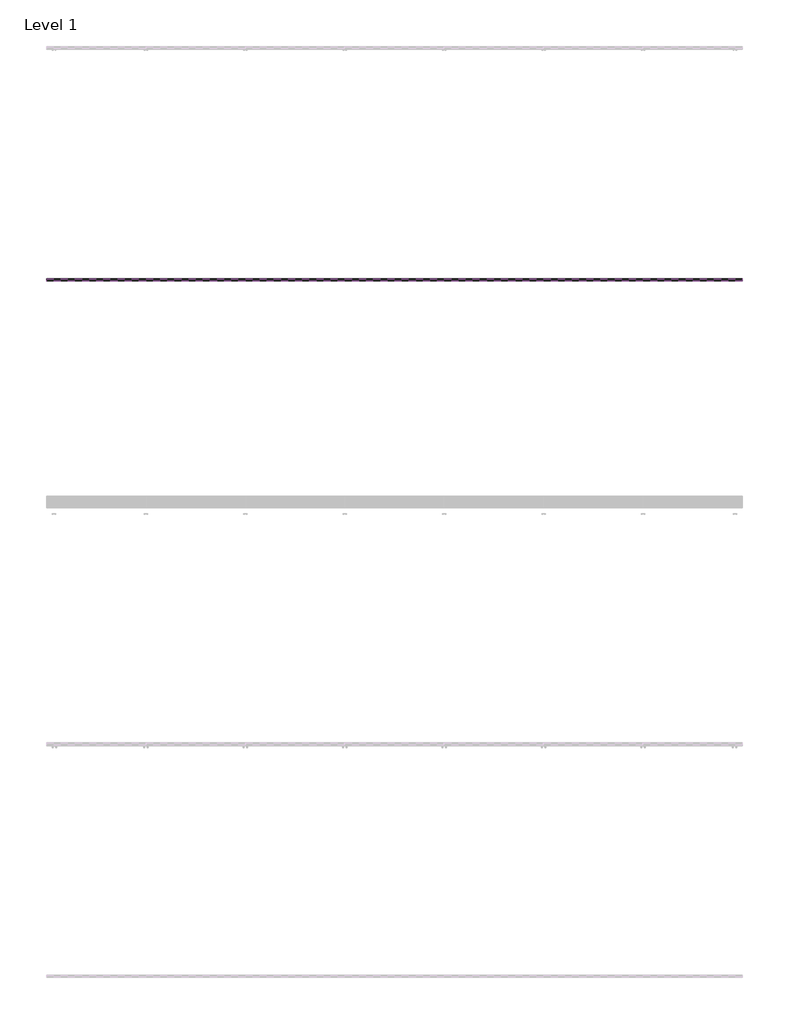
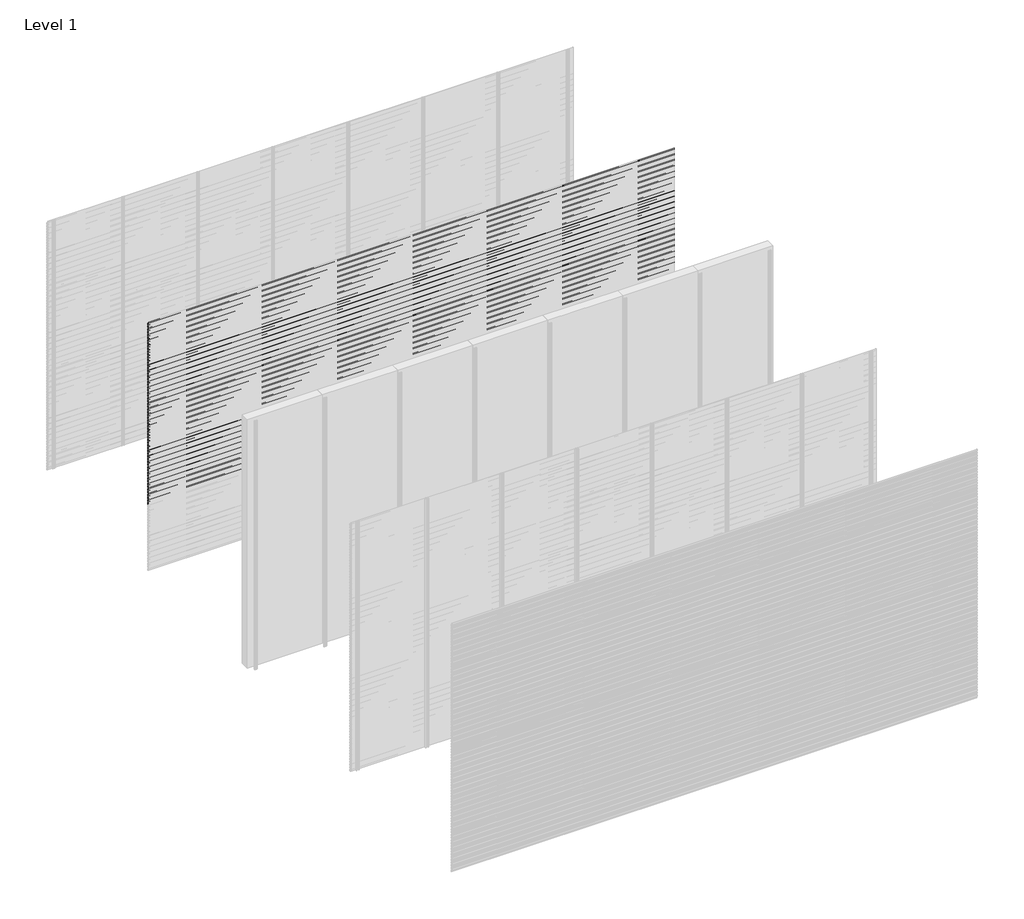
# One storey, part 88 of 96: 77 proxies.
"""IFC4 building model written with IfcOpenShell, lengths in millimetres."""

from ifc_helpers import new_model, si_unit, frame, origin, place, context, project, spatial, polyline, outline, extrude, element, save

model = new_model("IFC4")

# Units and contexts
model_context = context("Model", 3, world=origin())
ifc_project = project(units=[si_unit("LENGTHUNIT", "METRE", prefix="MILLI")], contexts=[model_context])

# Site, building, storey
site = spatial("IfcSite", under=ifc_project)
building = spatial("IfcBuilding", under=site)
storey = spatial("IfcBuildingStorey", under=building, Name="Level 1", Elevation=0.0)

# Proxies
placement = place(None, origin())
element("IfcBuildingElementProxy", 1, Name="Wall Sweeps", at=placement, inside=storey, context=model_context, shape_type="SweptSolid", body=[
    extrude(outline(polyline([(-1977.6, 2971.7655033), (-1977.6, 2957.4779188), (-1982.4114965, 2954.7), (-1982.4114965, 2955.9701706), (-1978.85, 2958.0264016), (-1978.85, 2971.0437382), (-1998.0, 2982.1000799), (-1998.0, 2997.0), (-1996.75, 2997.0), (-1996.75, 2982.8217609), (-1977.6, 2971.7655033)])), frame((0.0, 0.0, 0.0), z_axis=(1.0, 0.0, 0.0), x_axis=(0.0, 1.0, 0.0)), (0.0, 0.0, 1.0), 6000.0),
])
element("IfcBuildingElementProxy", 2, Name="Wall Sweeps", at=placement, inside=storey, context=model_context, shape_type="SweptSolid", body=[
    extrude(outline(polyline([(-1977.6, 2938.4655033), (-1977.6, 2924.1779188), (-1982.4114965, 2921.4), (-1982.4114965, 2922.6701706), (-1978.85, 2924.7264016), (-1978.85, 2937.7437382), (-1998.0, 2948.8000799), (-1998.0, 2963.7), (-1996.75, 2963.7), (-1996.75, 2949.5217609), (-1977.6, 2938.4655033)])), frame((0.0, 0.0, 0.0), z_axis=(1.0, 0.0, 0.0), x_axis=(0.0, 1.0, 0.0)), (0.0, 0.0, 1.0), 6000.0),
])
element("IfcBuildingElementProxy", 3, Name="Wall Sweeps", at=placement, inside=storey, context=model_context, shape_type="SweptSolid", body=[
    extrude(outline(polyline([(-1977.6, 2905.1655033), (-1977.6, 2890.8779188), (-1982.4114965, 2888.1), (-1982.4114965, 2889.3701706), (-1978.85, 2891.4264016), (-1978.85, 2904.4437382), (-1998.0, 2915.5000799), (-1998.0, 2930.4), (-1996.75, 2930.4), (-1996.75, 2916.2217609), (-1977.6, 2905.1655033)])), frame((0.0, 0.0, 0.0), z_axis=(1.0, 0.0, 0.0), x_axis=(0.0, 1.0, 0.0)), (0.0, 0.0, 1.0), 6000.0),
])
element("IfcBuildingElementProxy", 4, Name="Wall Sweeps", at=placement, inside=storey, context=model_context, shape_type="SweptSolid", body=[
    extrude(outline(polyline([(-1977.6, 2871.8655033), (-1977.6, 2857.5779188), (-1982.4114965, 2854.8), (-1982.4114965, 2856.0701706), (-1978.85, 2858.1264016), (-1978.85, 2871.1437382), (-1998.0, 2882.2000799), (-1998.0, 2897.1), (-1996.75, 2897.1), (-1996.75, 2882.9217609), (-1977.6, 2871.8655033)])), frame((0.0, 0.0, 0.0), z_axis=(1.0, 0.0, 0.0), x_axis=(0.0, 1.0, 0.0)), (0.0, 0.0, 1.0), 6000.0),
])
element("IfcBuildingElementProxy", 5, Name="Wall Sweeps", at=placement, inside=storey, context=model_context, shape_type="SweptSolid", body=[
    extrude(outline(polyline([(-1977.6, 2838.5655033), (-1977.6, 2824.2779188), (-1982.4114965, 2821.5), (-1982.4114965, 2822.7701706), (-1978.85, 2824.8264016), (-1978.85, 2837.8437382), (-1998.0, 2848.9000799), (-1998.0, 2863.8), (-1996.75, 2863.8), (-1996.75, 2849.6217609), (-1977.6, 2838.5655033)])), frame((0.0, 0.0, 0.0), z_axis=(1.0, 0.0, 0.0), x_axis=(0.0, 1.0, 0.0)), (0.0, 0.0, 1.0), 6000.0),
])
element("IfcBuildingElementProxy", 6, Name="Wall Sweeps", at=placement, inside=storey, context=model_context, shape_type="SweptSolid", body=[
    extrude(outline(polyline([(-1977.6, 2805.2655033), (-1977.6, 2790.9779188), (-1982.4114965, 2788.2), (-1982.4114965, 2789.4701706), (-1978.85, 2791.5264016), (-1978.85, 2804.5437382), (-1998.0, 2815.6000799), (-1998.0, 2830.5), (-1996.75, 2830.5), (-1996.75, 2816.3217609), (-1977.6, 2805.2655033)])), frame((0.0, 0.0, 0.0), z_axis=(1.0, 0.0, 0.0), x_axis=(0.0, 1.0, 0.0)), (0.0, 0.0, 1.0), 6000.0),
])
element("IfcBuildingElementProxy", 7, Name="Wall Sweeps", at=placement, inside=storey, context=model_context, shape_type="SweptSolid", body=[
    extrude(outline(polyline([(-1977.6, 2771.9655033), (-1977.6, 2757.6779188), (-1982.4114965, 2754.9), (-1982.4114965, 2756.1701706), (-1978.85, 2758.2264016), (-1978.85, 2771.2437382), (-1998.0, 2782.3000799), (-1998.0, 2797.2), (-1996.75, 2797.2), (-1996.75, 2783.0217609), (-1977.6, 2771.9655033)])), frame((0.0, 0.0, 0.0), z_axis=(1.0, 0.0, 0.0), x_axis=(0.0, 1.0, 0.0)), (0.0, 0.0, 1.0), 6000.0),
])
element("IfcBuildingElementProxy", 8, Name="Wall Sweeps", at=placement, inside=storey, context=model_context, shape_type="SweptSolid", body=[
    extrude(outline(polyline([(-1977.6, 2738.6655033), (-1977.6, 2724.3779188), (-1982.4114965, 2721.6), (-1982.4114965, 2722.8701706), (-1978.85, 2724.9264016), (-1978.85, 2737.9437382), (-1998.0, 2749.0000799), (-1998.0, 2763.9), (-1996.75, 2763.9), (-1996.75, 2749.7217609), (-1977.6, 2738.6655033)])), frame((0.0, 0.0, 0.0), z_axis=(1.0, 0.0, 0.0), x_axis=(0.0, 1.0, 0.0)), (0.0, 0.0, 1.0), 6000.0),
])
element("IfcBuildingElementProxy", 9, Name="Wall Sweeps", at=placement, inside=storey, context=model_context, shape_type="SweptSolid", body=[
    extrude(outline(polyline([(-1977.6, 2705.3655033), (-1977.6, 2691.0779188), (-1982.4114965, 2688.3), (-1982.4114965, 2689.5701706), (-1978.85, 2691.6264016), (-1978.85, 2704.6437382), (-1998.0, 2715.7000799), (-1998.0, 2730.6), (-1996.75, 2730.6), (-1996.75, 2716.4217609), (-1977.6, 2705.3655033)])), frame((0.0, 0.0, 0.0), z_axis=(1.0, 0.0, 0.0), x_axis=(0.0, 1.0, 0.0)), (0.0, 0.0, 1.0), 6000.0),
])
element("IfcBuildingElementProxy", 10, Name="Wall Sweeps", at=placement, inside=storey, context=model_context, shape_type="SweptSolid", body=[
    extrude(outline(polyline([(-1977.6, 2672.0655033), (-1977.6, 2657.7779188), (-1982.4114965, 2655.0), (-1982.4114965, 2656.2701706), (-1978.85, 2658.3264016), (-1978.85, 2671.3437382), (-1998.0, 2682.4000799), (-1998.0, 2697.3), (-1996.75, 2697.3), (-1996.75, 2683.1217609), (-1977.6, 2672.0655033)])), frame((0.0, 0.0, 0.0), z_axis=(1.0, 0.0, 0.0), x_axis=(0.0, 1.0, 0.0)), (0.0, 0.0, 1.0), 6000.0),
])
element("IfcBuildingElementProxy", 11, Name="Wall Sweeps", at=placement, inside=storey, context=model_context, shape_type="SweptSolid", body=[
    extrude(outline(polyline([(-1977.6, 2638.7655033), (-1977.6, 2624.4779188), (-1982.4114965, 2621.7), (-1982.4114965, 2622.9701706), (-1978.85, 2625.0264016), (-1978.85, 2638.0437382), (-1998.0, 2649.1000799), (-1998.0, 2664.0), (-1996.75, 2664.0), (-1996.75, 2649.8217609), (-1977.6, 2638.7655033)])), frame((0.0, 0.0, 0.0), z_axis=(1.0, 0.0, 0.0), x_axis=(0.0, 1.0, 0.0)), (0.0, 0.0, 1.0), 6000.0),
])
element("IfcBuildingElementProxy", 12, Name="Wall Sweeps", at=placement, inside=storey, context=model_context, shape_type="SweptSolid", body=[
    extrude(outline(polyline([(-1977.6, 2605.4655033), (-1977.6, 2591.1779188), (-1982.4114965, 2588.4), (-1982.4114965, 2589.6701706), (-1978.85, 2591.7264016), (-1978.85, 2604.7437382), (-1998.0, 2615.8000799), (-1998.0, 2630.7), (-1996.75, 2630.7), (-1996.75, 2616.5217609), (-1977.6, 2605.4655033)])), frame((0.0, 0.0, 0.0), z_axis=(1.0, 0.0, 0.0), x_axis=(0.0, 1.0, 0.0)), (0.0, 0.0, 1.0), 6000.0),
])
element("IfcBuildingElementProxy", 13, Name="Wall Sweeps", at=placement, inside=storey, context=model_context, shape_type="SweptSolid", body=[
    extrude(outline(polyline([(-1977.6, 2572.1655033), (-1977.6, 2557.8779188), (-1982.4114965, 2555.1), (-1982.4114965, 2556.3701706), (-1978.85, 2558.4264016), (-1978.85, 2571.4437382), (-1998.0, 2582.5000799), (-1998.0, 2597.4), (-1996.75, 2597.4), (-1996.75, 2583.2217609), (-1977.6, 2572.1655033)])), frame((0.0, 0.0, 0.0), z_axis=(1.0, 0.0, 0.0), x_axis=(0.0, 1.0, 0.0)), (0.0, 0.0, 1.0), 6000.0),
])
element("IfcBuildingElementProxy", 14, Name="Wall Sweeps", at=placement, inside=storey, context=model_context, shape_type="SweptSolid", body=[
    extrude(outline(polyline([(-1977.6, 2538.8655033), (-1977.6, 2524.5779188), (-1982.4114965, 2521.8), (-1982.4114965, 2523.0701706), (-1978.85, 2525.1264016), (-1978.85, 2538.1437382), (-1998.0, 2549.2000799), (-1998.0, 2564.1), (-1996.75, 2564.1), (-1996.75, 2549.9217609), (-1977.6, 2538.8655033)])), frame((0.0, 0.0, 0.0), z_axis=(1.0, 0.0, 0.0), x_axis=(0.0, 1.0, 0.0)), (0.0, 0.0, 1.0), 6000.0),
])
element("IfcBuildingElementProxy", 15, Name="Wall Sweeps", at=placement, inside=storey, context=model_context, shape_type="SweptSolid", body=[
    extrude(outline(polyline([(-1977.6, 2505.5655033), (-1977.6, 2491.2779188), (-1982.4114965, 2488.5), (-1982.4114965, 2489.7701706), (-1978.85, 2491.8264016), (-1978.85, 2504.8437382), (-1998.0, 2515.9000799), (-1998.0, 2530.8), (-1996.75, 2530.8), (-1996.75, 2516.6217609), (-1977.6, 2505.5655033)])), frame((0.0, 0.0, 0.0), z_axis=(1.0, 0.0, 0.0), x_axis=(0.0, 1.0, 0.0)), (0.0, 0.0, 1.0), 6000.0),
])
element("IfcBuildingElementProxy", 16, Name="Wall Sweeps", at=placement, inside=storey, context=model_context, shape_type="SweptSolid", body=[
    extrude(outline(polyline([(-1977.6, 2472.2655033), (-1977.6, 2457.9779188), (-1982.4114965, 2455.2), (-1982.4114965, 2456.4701706), (-1978.85, 2458.5264016), (-1978.85, 2471.5437382), (-1998.0, 2482.6000799), (-1998.0, 2497.5), (-1996.75, 2497.5), (-1996.75, 2483.3217609), (-1977.6, 2472.2655033)])), frame((0.0, 0.0, 0.0), z_axis=(1.0, 0.0, 0.0), x_axis=(0.0, 1.0, 0.0)), (0.0, 0.0, 1.0), 6000.0),
])
element("IfcBuildingElementProxy", 17, Name="Wall Sweeps", at=placement, inside=storey, context=model_context, shape_type="SweptSolid", body=[
    extrude(outline(polyline([(-1977.6, 2438.9655033), (-1977.6, 2424.6779188), (-1982.4114965, 2421.9), (-1982.4114965, 2423.1701706), (-1978.85, 2425.2264016), (-1978.85, 2438.2437382), (-1998.0, 2449.3000799), (-1998.0, 2464.2), (-1996.75, 2464.2), (-1996.75, 2450.0217609), (-1977.6, 2438.9655033)])), frame((0.0, 0.0, 0.0), z_axis=(1.0, 0.0, 0.0), x_axis=(0.0, 1.0, 0.0)), (0.0, 0.0, 1.0), 6000.0),
])
element("IfcBuildingElementProxy", 18, Name="Wall Sweeps", at=placement, inside=storey, context=model_context, shape_type="SweptSolid", body=[
    extrude(outline(polyline([(-1977.6, 2405.6655033), (-1977.6, 2391.3779188), (-1982.4114965, 2388.6), (-1982.4114965, 2389.8701706), (-1978.85, 2391.9264016), (-1978.85, 2404.9437382), (-1998.0, 2416.0000799), (-1998.0, 2430.9), (-1996.75, 2430.9), (-1996.75, 2416.7217609), (-1977.6, 2405.6655033)])), frame((0.0, 0.0, 0.0), z_axis=(1.0, 0.0, 0.0), x_axis=(0.0, 1.0, 0.0)), (0.0, 0.0, 1.0), 6000.0),
])
element("IfcBuildingElementProxy", 19, Name="Wall Sweeps", at=placement, inside=storey, context=model_context, shape_type="SweptSolid", body=[
    extrude(outline(polyline([(-1977.6, 2372.3655033), (-1977.6, 2358.0779188), (-1982.4114965, 2355.3), (-1982.4114965, 2356.5701706), (-1978.85, 2358.6264016), (-1978.85, 2371.6437382), (-1998.0, 2382.7000799), (-1998.0, 2397.6), (-1996.75, 2397.6), (-1996.75, 2383.4217609), (-1977.6, 2372.3655033)])), frame((0.0, 0.0, 0.0), z_axis=(1.0, 0.0, 0.0), x_axis=(0.0, 1.0, 0.0)), (0.0, 0.0, 1.0), 6000.0),
])
element("IfcBuildingElementProxy", 20, Name="Wall Sweeps", at=placement, inside=storey, context=model_context, shape_type="SweptSolid", body=[
    extrude(outline(polyline([(-1977.6, 2339.0655033), (-1977.6, 2324.7779188), (-1982.4114965, 2322.0), (-1982.4114965, 2323.2701706), (-1978.85, 2325.3264016), (-1978.85, 2338.3437382), (-1998.0, 2349.4000799), (-1998.0, 2364.3), (-1996.75, 2364.3), (-1996.75, 2350.1217609), (-1977.6, 2339.0655033)])), frame((0.0, 0.0, 0.0), z_axis=(1.0, 0.0, 0.0), x_axis=(0.0, 1.0, 0.0)), (0.0, 0.0, 1.0), 6000.0),
])
element("IfcBuildingElementProxy", 21, Name="Wall Sweeps", at=placement, inside=storey, context=model_context, shape_type="SweptSolid", body=[
    extrude(outline(polyline([(-1977.6, 2305.7655033), (-1977.6, 2291.4779188), (-1982.4114965, 2288.7), (-1982.4114965, 2289.9701706), (-1978.85, 2292.0264016), (-1978.85, 2305.0437382), (-1998.0, 2316.1000799), (-1998.0, 2331.0), (-1996.75, 2331.0), (-1996.75, 2316.8217609), (-1977.6, 2305.7655033)])), frame((0.0, 0.0, 0.0), z_axis=(1.0, 0.0, 0.0), x_axis=(0.0, 1.0, 0.0)), (0.0, 0.0, 1.0), 6000.0),
])
element("IfcBuildingElementProxy", 22, Name="Wall Sweeps", at=placement, inside=storey, context=model_context, shape_type="SweptSolid", body=[
    extrude(outline(polyline([(-1977.6, 2272.4655033), (-1977.6, 2258.1779188), (-1982.4114965, 2255.4), (-1982.4114965, 2256.6701706), (-1978.85, 2258.7264016), (-1978.85, 2271.7437382), (-1998.0, 2282.8000799), (-1998.0, 2297.7), (-1996.75, 2297.7), (-1996.75, 2283.5217609), (-1977.6, 2272.4655033)])), frame((0.0, 0.0, 0.0), z_axis=(1.0, 0.0, 0.0), x_axis=(0.0, 1.0, 0.0)), (0.0, 0.0, 1.0), 6000.0),
])
element("IfcBuildingElementProxy", 23, Name="Wall Sweeps", at=placement, inside=storey, context=model_context, shape_type="SweptSolid", body=[
    extrude(outline(polyline([(-1977.6, 2239.1655033), (-1977.6, 2224.8779188), (-1982.4114965, 2222.1), (-1982.4114965, 2223.3701706), (-1978.85, 2225.4264016), (-1978.85, 2238.4437382), (-1998.0, 2249.5000799), (-1998.0, 2264.4), (-1996.75, 2264.4), (-1996.75, 2250.2217609), (-1977.6, 2239.1655033)])), frame((0.0, 0.0, 0.0), z_axis=(1.0, 0.0, 0.0), x_axis=(0.0, 1.0, 0.0)), (0.0, 0.0, 1.0), 6000.0),
])
element("IfcBuildingElementProxy", 24, Name="Wall Sweeps", at=placement, inside=storey, context=model_context, shape_type="SweptSolid", body=[
    extrude(outline(polyline([(-1977.6, 2205.8655033), (-1977.6, 2191.5779188), (-1982.4114965, 2188.8), (-1982.4114965, 2190.0701706), (-1978.85, 2192.1264016), (-1978.85, 2205.1437382), (-1998.0, 2216.2000799), (-1998.0, 2231.1), (-1996.75, 2231.1), (-1996.75, 2216.9217609), (-1977.6, 2205.8655033)])), frame((0.0, 0.0, 0.0), z_axis=(1.0, 0.0, 0.0), x_axis=(0.0, 1.0, 0.0)), (0.0, 0.0, 1.0), 6000.0),
])
element("IfcBuildingElementProxy", 25, Name="Wall Sweeps", at=placement, inside=storey, context=model_context, shape_type="SweptSolid", body=[
    extrude(outline(polyline([(-1977.6, 2172.5655033), (-1977.6, 2158.2779188), (-1982.4114965, 2155.5), (-1982.4114965, 2156.7701706), (-1978.85, 2158.8264016), (-1978.85, 2171.8437382), (-1998.0, 2182.9000799), (-1998.0, 2197.8), (-1996.75, 2197.8), (-1996.75, 2183.6217609), (-1977.6, 2172.5655033)])), frame((0.0, 0.0, 0.0), z_axis=(1.0, 0.0, 0.0), x_axis=(0.0, 1.0, 0.0)), (0.0, 0.0, 1.0), 6000.0),
])
element("IfcBuildingElementProxy", 26, Name="Wall Sweeps", at=placement, inside=storey, context=model_context, shape_type="SweptSolid", body=[
    extrude(outline(polyline([(-1977.6, 2139.2655033), (-1977.6, 2124.9779188), (-1982.4114965, 2122.2), (-1982.4114965, 2123.4701706), (-1978.85, 2125.5264016), (-1978.85, 2138.5437382), (-1998.0, 2149.6000799), (-1998.0, 2164.5), (-1996.75, 2164.5), (-1996.75, 2150.3217609), (-1977.6, 2139.2655033)])), frame((0.0, 0.0, 0.0), z_axis=(1.0, 0.0, 0.0), x_axis=(0.0, 1.0, 0.0)), (0.0, 0.0, 1.0), 6000.0),
])
element("IfcBuildingElementProxy", 27, Name="Wall Sweeps", at=placement, inside=storey, context=model_context, shape_type="SweptSolid", body=[
    extrude(outline(polyline([(-1977.6, 2105.9655033), (-1977.6, 2091.6779188), (-1982.4114965, 2088.9), (-1982.4114965, 2090.1701706), (-1978.85, 2092.2264016), (-1978.85, 2105.2437382), (-1998.0, 2116.3000799), (-1998.0, 2131.2), (-1996.75, 2131.2), (-1996.75, 2117.0217609), (-1977.6, 2105.9655033)])), frame((0.0, 0.0, 0.0), z_axis=(1.0, 0.0, 0.0), x_axis=(0.0, 1.0, 0.0)), (0.0, 0.0, 1.0), 6000.0),
])
element("IfcBuildingElementProxy", 28, Name="Wall Sweeps", at=placement, inside=storey, context=model_context, shape_type="SweptSolid", body=[
    extrude(outline(polyline([(-1977.6, 2072.6655033), (-1977.6, 2058.3779188), (-1982.4114965, 2055.6), (-1982.4114965, 2056.8701706), (-1978.85, 2058.9264016), (-1978.85, 2071.9437382), (-1998.0, 2083.0000799), (-1998.0, 2097.9), (-1996.75, 2097.9), (-1996.75, 2083.7217609), (-1977.6, 2072.6655033)])), frame((0.0, 0.0, 0.0), z_axis=(1.0, 0.0, 0.0), x_axis=(0.0, 1.0, 0.0)), (0.0, 0.0, 1.0), 6000.0),
])
element("IfcBuildingElementProxy", 29, Name="Wall Sweeps", at=placement, inside=storey, context=model_context, shape_type="SweptSolid", body=[
    extrude(outline(polyline([(-1977.6, 2039.3655033), (-1977.6, 2025.0779188), (-1982.4114965, 2022.3), (-1982.4114965, 2023.5701706), (-1978.85, 2025.6264016), (-1978.85, 2038.6437382), (-1998.0, 2049.7000799), (-1998.0, 2064.6), (-1996.75, 2064.6), (-1996.75, 2050.4217609), (-1977.6, 2039.3655033)])), frame((0.0, 0.0, 0.0), z_axis=(1.0, 0.0, 0.0), x_axis=(0.0, 1.0, 0.0)), (0.0, 0.0, 1.0), 6000.0),
])
element("IfcBuildingElementProxy", 30, Name="Wall Sweeps", at=placement, inside=storey, context=model_context, shape_type="SweptSolid", body=[
    extrude(outline(polyline([(-1977.6, 2006.0655033), (-1977.6, 1991.7779188), (-1982.4114965, 1989.0), (-1982.4114965, 1990.2701706), (-1978.85, 1992.3264016), (-1978.85, 2005.3437382), (-1998.0, 2016.4000799), (-1998.0, 2031.3), (-1996.75, 2031.3), (-1996.75, 2017.1217609), (-1977.6, 2006.0655033)])), frame((0.0, 0.0, 0.0), z_axis=(1.0, 0.0, 0.0), x_axis=(0.0, 1.0, 0.0)), (0.0, 0.0, 1.0), 6000.0),
])
element("IfcBuildingElementProxy", 31, Name="Wall Sweeps", at=placement, inside=storey, context=model_context, shape_type="SweptSolid", body=[
    extrude(outline(polyline([(-1977.6, 1972.7655033), (-1977.6, 1958.4779188), (-1982.4114965, 1955.7), (-1982.4114965, 1956.9701706), (-1978.85, 1959.0264016), (-1978.85, 1972.0437382), (-1998.0, 1983.1000799), (-1998.0, 1998.0), (-1996.75, 1998.0), (-1996.75, 1983.8217609), (-1977.6, 1972.7655033)])), frame((0.0, 0.0, 0.0), z_axis=(1.0, 0.0, 0.0), x_axis=(0.0, 1.0, 0.0)), (0.0, 0.0, 1.0), 6000.0),
])
element("IfcBuildingElementProxy", 32, Name="Wall Sweeps", at=placement, inside=storey, context=model_context, shape_type="SweptSolid", body=[
    extrude(outline(polyline([(-1977.6, 1939.4655033), (-1977.6, 1925.1779188), (-1982.4114965, 1922.4), (-1982.4114965, 1923.6701706), (-1978.85, 1925.7264016), (-1978.85, 1938.7437382), (-1998.0, 1949.8000799), (-1998.0, 1964.7), (-1996.75, 1964.7), (-1996.75, 1950.5217609), (-1977.6, 1939.4655033)])), frame((0.0, 0.0, 0.0), z_axis=(1.0, 0.0, 0.0), x_axis=(0.0, 1.0, 0.0)), (0.0, 0.0, 1.0), 6000.0),
])
element("IfcBuildingElementProxy", 33, Name="Wall Sweeps", at=placement, inside=storey, context=model_context, shape_type="SweptSolid", body=[
    extrude(outline(polyline([(-1977.6, 1906.1655033), (-1977.6, 1891.8779188), (-1982.4114965, 1889.1), (-1982.4114965, 1890.3701706), (-1978.85, 1892.4264016), (-1978.85, 1905.4437382), (-1998.0, 1916.5000799), (-1998.0, 1931.4), (-1996.75, 1931.4), (-1996.75, 1917.2217609), (-1977.6, 1906.1655033)])), frame((0.0, 0.0, 0.0), z_axis=(1.0, 0.0, 0.0), x_axis=(0.0, 1.0, 0.0)), (0.0, 0.0, 1.0), 6000.0),
])
element("IfcBuildingElementProxy", 34, Name="Wall Sweeps", at=placement, inside=storey, context=model_context, shape_type="SweptSolid", body=[
    extrude(outline(polyline([(-1977.6, 1872.8655033), (-1977.6, 1858.5779188), (-1982.4114965, 1855.8), (-1982.4114965, 1857.0701706), (-1978.85, 1859.1264016), (-1978.85, 1872.1437382), (-1998.0, 1883.2000799), (-1998.0, 1898.1), (-1996.75, 1898.1), (-1996.75, 1883.9217609), (-1977.6, 1872.8655033)])), frame((0.0, 0.0, 0.0), z_axis=(1.0, 0.0, 0.0), x_axis=(0.0, 1.0, 0.0)), (0.0, 0.0, 1.0), 6000.0),
])
element("IfcBuildingElementProxy", 35, Name="Wall Sweeps", at=placement, inside=storey, context=model_context, shape_type="SweptSolid", body=[
    extrude(outline(polyline([(-1977.6, 1839.5655033), (-1977.6, 1825.2779188), (-1982.4114965, 1822.5), (-1982.4114965, 1823.7701706), (-1978.85, 1825.8264016), (-1978.85, 1838.8437382), (-1998.0, 1849.9000799), (-1998.0, 1864.8), (-1996.75, 1864.8), (-1996.75, 1850.6217609), (-1977.6, 1839.5655033)])), frame((0.0, 0.0, 0.0), z_axis=(1.0, 0.0, 0.0), x_axis=(0.0, 1.0, 0.0)), (0.0, 0.0, 1.0), 6000.0),
])
element("IfcBuildingElementProxy", 36, Name="Wall Sweeps", at=placement, inside=storey, context=model_context, shape_type="SweptSolid", body=[
    extrude(outline(polyline([(-1977.6, 1806.2655033), (-1977.6, 1791.9779188), (-1982.4114965, 1789.2), (-1982.4114965, 1790.4701706), (-1978.85, 1792.5264016), (-1978.85, 1805.5437382), (-1998.0, 1816.6000799), (-1998.0, 1831.5), (-1996.75, 1831.5), (-1996.75, 1817.3217609), (-1977.6, 1806.2655033)])), frame((0.0, 0.0, 0.0), z_axis=(1.0, 0.0, 0.0), x_axis=(0.0, 1.0, 0.0)), (0.0, 0.0, 1.0), 6000.0),
])
element("IfcBuildingElementProxy", 37, Name="Wall Sweeps", at=placement, inside=storey, context=model_context, shape_type="SweptSolid", body=[
    extrude(outline(polyline([(-1977.6, 1772.9655033), (-1977.6, 1758.6779188), (-1982.4114965, 1755.9), (-1982.4114965, 1757.1701706), (-1978.85, 1759.2264016), (-1978.85, 1772.2437382), (-1998.0, 1783.3000799), (-1998.0, 1798.2), (-1996.75, 1798.2), (-1996.75, 1784.0217609), (-1977.6, 1772.9655033)])), frame((0.0, 0.0, 0.0), z_axis=(1.0, 0.0, 0.0), x_axis=(0.0, 1.0, 0.0)), (0.0, 0.0, 1.0), 6000.0),
])
element("IfcBuildingElementProxy", 38, Name="Wall Sweeps", at=placement, inside=storey, context=model_context, shape_type="SweptSolid", body=[
    extrude(outline(polyline([(-1977.6, 1739.6655033), (-1977.6, 1725.3779188), (-1982.4114965, 1722.6), (-1982.4114965, 1723.8701706), (-1978.85, 1725.9264016), (-1978.85, 1738.9437382), (-1998.0, 1750.0000799), (-1998.0, 1764.9), (-1996.75, 1764.9), (-1996.75, 1750.7217609), (-1977.6, 1739.6655033)])), frame((0.0, 0.0, 0.0), z_axis=(1.0, 0.0, 0.0), x_axis=(0.0, 1.0, 0.0)), (0.0, 0.0, 1.0), 6000.0),
])
element("IfcBuildingElementProxy", 39, Name="Wall Sweeps", at=placement, inside=storey, context=model_context, shape_type="SweptSolid", body=[
    extrude(outline(polyline([(-1977.6, 1706.3655033), (-1977.6, 1692.0779188), (-1982.4114965, 1689.3), (-1982.4114965, 1690.5701706), (-1978.85, 1692.6264016), (-1978.85, 1705.6437382), (-1998.0, 1716.7000799), (-1998.0, 1731.6), (-1996.75, 1731.6), (-1996.75, 1717.4217609), (-1977.6, 1706.3655033)])), frame((0.0, 0.0, 0.0), z_axis=(1.0, 0.0, 0.0), x_axis=(0.0, 1.0, 0.0)), (0.0, 0.0, 1.0), 6000.0),
])
element("IfcBuildingElementProxy", 40, Name="Wall Sweeps", at=placement, inside=storey, context=model_context, shape_type="SweptSolid", body=[
    extrude(outline(polyline([(-1977.6, 1673.0655033), (-1977.6, 1658.7779188), (-1982.4114965, 1656.0), (-1982.4114965, 1657.2701706), (-1978.85, 1659.3264016), (-1978.85, 1672.3437382), (-1998.0, 1683.4000799), (-1998.0, 1698.3), (-1996.75, 1698.3), (-1996.75, 1684.1217609), (-1977.6, 1673.0655033)])), frame((0.0, 0.0, 0.0), z_axis=(1.0, 0.0, 0.0), x_axis=(0.0, 1.0, 0.0)), (0.0, 0.0, 1.0), 6000.0),
])
element("IfcBuildingElementProxy", 41, Name="Wall Sweeps", at=placement, inside=storey, context=model_context, shape_type="SweptSolid", body=[
    extrude(outline(polyline([(-1977.6, 1639.7655033), (-1977.6, 1625.4779188), (-1982.4114965, 1622.7), (-1982.4114965, 1623.9701706), (-1978.85, 1626.0264016), (-1978.85, 1639.0437382), (-1998.0, 1650.1000799), (-1998.0, 1665.0), (-1996.75, 1665.0), (-1996.75, 1650.8217609), (-1977.6, 1639.7655033)])), frame((0.0, 0.0, 0.0), z_axis=(1.0, 0.0, 0.0), x_axis=(0.0, 1.0, 0.0)), (0.0, 0.0, 1.0), 6000.0),
])
element("IfcBuildingElementProxy", 42, Name="Wall Sweeps", at=placement, inside=storey, context=model_context, shape_type="SweptSolid", body=[
    extrude(outline(polyline([(-1977.6, 1606.4655033), (-1977.6, 1592.1779188), (-1982.4114965, 1589.4), (-1982.4114965, 1590.6701706), (-1978.85, 1592.7264016), (-1978.85, 1605.7437382), (-1998.0, 1616.8000799), (-1998.0, 1631.7), (-1996.75, 1631.7), (-1996.75, 1617.5217609), (-1977.6, 1606.4655033)])), frame((0.0, 0.0, 0.0), z_axis=(1.0, 0.0, 0.0), x_axis=(0.0, 1.0, 0.0)), (0.0, 0.0, 1.0), 6000.0),
])
element("IfcBuildingElementProxy", 43, Name="Wall Sweeps", at=placement, inside=storey, context=model_context, shape_type="SweptSolid", body=[
    extrude(outline(polyline([(-1977.6, 1573.1655033), (-1977.6, 1558.8779188), (-1982.4114965, 1556.1), (-1982.4114965, 1557.3701706), (-1978.85, 1559.4264016), (-1978.85, 1572.4437382), (-1998.0, 1583.5000799), (-1998.0, 1598.4), (-1996.75, 1598.4), (-1996.75, 1584.2217609), (-1977.6, 1573.1655033)])), frame((0.0, 0.0, 0.0), z_axis=(1.0, 0.0, 0.0), x_axis=(0.0, 1.0, 0.0)), (0.0, 0.0, 1.0), 6000.0),
])
element("IfcBuildingElementProxy", 44, Name="Wall Sweeps", at=placement, inside=storey, context=model_context, shape_type="SweptSolid", body=[
    extrude(outline(polyline([(-1977.6, 1539.8655033), (-1977.6, 1525.5779188), (-1982.4114965, 1522.8), (-1982.4114965, 1524.0701706), (-1978.85, 1526.1264016), (-1978.85, 1539.1437382), (-1998.0, 1550.2000799), (-1998.0, 1565.1), (-1996.75, 1565.1), (-1996.75, 1550.9217609), (-1977.6, 1539.8655033)])), frame((0.0, 0.0, 0.0), z_axis=(1.0, 0.0, 0.0), x_axis=(0.0, 1.0, 0.0)), (0.0, 0.0, 1.0), 6000.0),
])
element("IfcBuildingElementProxy", 45, Name="Wall Sweeps", at=placement, inside=storey, context=model_context, shape_type="SweptSolid", body=[
    extrude(outline(polyline([(-1977.6, 1506.5655033), (-1977.6, 1492.2779188), (-1982.4114965, 1489.5), (-1982.4114965, 1490.7701706), (-1978.85, 1492.8264016), (-1978.85, 1505.8437382), (-1998.0, 1516.9000799), (-1998.0, 1531.8), (-1996.75, 1531.8), (-1996.75, 1517.6217609), (-1977.6, 1506.5655033)])), frame((0.0, 0.0, 0.0), z_axis=(1.0, 0.0, 0.0), x_axis=(0.0, 1.0, 0.0)), (0.0, 0.0, 1.0), 6000.0),
])
element("IfcBuildingElementProxy", 46, Name="Wall Sweeps", at=placement, inside=storey, context=model_context, shape_type="SweptSolid", body=[
    extrude(outline(polyline([(-1977.6, 1473.2655033), (-1977.6, 1458.9779188), (-1982.4114965, 1456.2), (-1982.4114965, 1457.4701706), (-1978.85, 1459.5264016), (-1978.85, 1472.5437382), (-1998.0, 1483.6000799), (-1998.0, 1498.5), (-1996.75, 1498.5), (-1996.75, 1484.3217609), (-1977.6, 1473.2655033)])), frame((0.0, 0.0, 0.0), z_axis=(1.0, 0.0, 0.0), x_axis=(0.0, 1.0, 0.0)), (0.0, 0.0, 1.0), 6000.0),
])
element("IfcBuildingElementProxy", 47, Name="Wall Sweeps", at=placement, inside=storey, context=model_context, shape_type="SweptSolid", body=[
    extrude(outline(polyline([(-1977.6, 1439.9655033), (-1977.6, 1425.6779188), (-1982.4114965, 1422.9), (-1982.4114965, 1424.1701706), (-1978.85, 1426.2264016), (-1978.85, 1439.2437382), (-1998.0, 1450.3000799), (-1998.0, 1465.2), (-1996.75, 1465.2), (-1996.75, 1451.0217609), (-1977.6, 1439.9655033)])), frame((0.0, 0.0, 0.0), z_axis=(1.0, 0.0, 0.0), x_axis=(0.0, 1.0, 0.0)), (0.0, 0.0, 1.0), 6000.0),
])
element("IfcBuildingElementProxy", 48, Name="Wall Sweeps", at=placement, inside=storey, context=model_context, shape_type="SweptSolid", body=[
    extrude(outline(polyline([(-1977.6, 1406.6655033), (-1977.6, 1392.3779188), (-1982.4114965, 1389.6), (-1982.4114965, 1390.8701706), (-1978.85, 1392.9264016), (-1978.85, 1405.9437382), (-1998.0, 1417.0000799), (-1998.0, 1431.9), (-1996.75, 1431.9), (-1996.75, 1417.7217609), (-1977.6, 1406.6655033)])), frame((0.0, 0.0, 0.0), z_axis=(1.0, 0.0, 0.0), x_axis=(0.0, 1.0, 0.0)), (0.0, 0.0, 1.0), 6000.0),
])
element("IfcBuildingElementProxy", 49, Name="Wall Sweeps", at=placement, inside=storey, context=model_context, shape_type="SweptSolid", body=[
    extrude(outline(polyline([(-1977.6, 1373.3655033), (-1977.6, 1359.0779188), (-1982.4114965, 1356.3), (-1982.4114965, 1357.5701706), (-1978.85, 1359.6264016), (-1978.85, 1372.6437382), (-1998.0, 1383.7000799), (-1998.0, 1398.6), (-1996.75, 1398.6), (-1996.75, 1384.4217609), (-1977.6, 1373.3655033)])), frame((0.0, 0.0, 0.0), z_axis=(1.0, 0.0, 0.0), x_axis=(0.0, 1.0, 0.0)), (0.0, 0.0, 1.0), 6000.0),
])
element("IfcBuildingElementProxy", 50, Name="Wall Sweeps", at=placement, inside=storey, context=model_context, shape_type="SweptSolid", body=[
    extrude(outline(polyline([(-1977.6, 1340.0655033), (-1977.6, 1325.7779188), (-1982.4114965, 1323.0), (-1982.4114965, 1324.2701706), (-1978.85, 1326.3264016), (-1978.85, 1339.3437382), (-1998.0, 1350.4000799), (-1998.0, 1365.3), (-1996.75, 1365.3), (-1996.75, 1351.1217609), (-1977.6, 1340.0655033)])), frame((0.0, 0.0, 0.0), z_axis=(1.0, 0.0, 0.0), x_axis=(0.0, 1.0, 0.0)), (0.0, 0.0, 1.0), 6000.0),
])
element("IfcBuildingElementProxy", 51, Name="Wall Sweeps", at=placement, inside=storey, context=model_context, shape_type="SweptSolid", body=[
    extrude(outline(polyline([(-1977.6, 1306.7655033), (-1977.6, 1292.4779188), (-1982.4114965, 1289.7), (-1982.4114965, 1290.9701706), (-1978.85, 1293.0264016), (-1978.85, 1306.0437382), (-1998.0, 1317.1000799), (-1998.0, 1332.0), (-1996.75, 1332.0), (-1996.75, 1317.8217609), (-1977.6, 1306.7655033)])), frame((0.0, 0.0, 0.0), z_axis=(1.0, 0.0, 0.0), x_axis=(0.0, 1.0, 0.0)), (0.0, 0.0, 1.0), 6000.0),
])
element("IfcBuildingElementProxy", 52, Name="Wall Sweeps", at=placement, inside=storey, context=model_context, shape_type="SweptSolid", body=[
    extrude(outline(polyline([(-1977.6, 1273.4655033), (-1977.6, 1259.1779188), (-1982.4114965, 1256.4), (-1982.4114965, 1257.6701706), (-1978.85, 1259.7264016), (-1978.85, 1272.7437382), (-1998.0, 1283.8000799), (-1998.0, 1298.7), (-1996.75, 1298.7), (-1996.75, 1284.5217609), (-1977.6, 1273.4655033)])), frame((0.0, 0.0, 0.0), z_axis=(1.0, 0.0, 0.0), x_axis=(0.0, 1.0, 0.0)), (0.0, 0.0, 1.0), 6000.0),
])
element("IfcBuildingElementProxy", 53, Name="Wall Sweeps", at=placement, inside=storey, context=model_context, shape_type="SweptSolid", body=[
    extrude(outline(polyline([(-1977.6, 1240.1655033), (-1977.6, 1225.8779188), (-1982.4114965, 1223.1), (-1982.4114965, 1224.3701706), (-1978.85, 1226.4264016), (-1978.85, 1239.4437382), (-1998.0, 1250.5000799), (-1998.0, 1265.4), (-1996.75, 1265.4), (-1996.75, 1251.2217609), (-1977.6, 1240.1655033)])), frame((0.0, 0.0, 0.0), z_axis=(1.0, 0.0, 0.0), x_axis=(0.0, 1.0, 0.0)), (0.0, 0.0, 1.0), 6000.0),
])
element("IfcBuildingElementProxy", 54, Name="Wall Sweeps", at=placement, inside=storey, context=model_context, shape_type="SweptSolid", body=[
    extrude(outline(polyline([(-1977.6, 1206.8655033), (-1977.6, 1192.5779188), (-1982.4114965, 1189.8), (-1982.4114965, 1191.0701706), (-1978.85, 1193.1264016), (-1978.85, 1206.1437382), (-1998.0, 1217.2000799), (-1998.0, 1232.1), (-1996.75, 1232.1), (-1996.75, 1217.9217609), (-1977.6, 1206.8655033)])), frame((0.0, 0.0, 0.0), z_axis=(1.0, 0.0, 0.0), x_axis=(0.0, 1.0, 0.0)), (0.0, 0.0, 1.0), 6000.0),
])
element("IfcBuildingElementProxy", 55, Name="Wall Sweeps", at=placement, inside=storey, context=model_context, shape_type="SweptSolid", body=[
    extrude(outline(polyline([(-1977.6, 1173.5655033), (-1977.6, 1159.2779188), (-1982.4114965, 1156.5), (-1982.4114965, 1157.7701706), (-1978.85, 1159.8264016), (-1978.85, 1172.8437382), (-1998.0, 1183.9000799), (-1998.0, 1198.8), (-1996.75, 1198.8), (-1996.75, 1184.6217609), (-1977.6, 1173.5655033)])), frame((0.0, 0.0, 0.0), z_axis=(1.0, 0.0, 0.0), x_axis=(0.0, 1.0, 0.0)), (0.0, 0.0, 1.0), 6000.0),
])
element("IfcBuildingElementProxy", 56, Name="Wall Sweeps", at=placement, inside=storey, context=model_context, shape_type="SweptSolid", body=[
    extrude(outline(polyline([(-1977.6, 1140.2655033), (-1977.6, 1125.9779188), (-1982.4114965, 1123.2), (-1982.4114965, 1124.4701706), (-1978.85, 1126.5264016), (-1978.85, 1139.5437382), (-1998.0, 1150.6000799), (-1998.0, 1165.5), (-1996.75, 1165.5), (-1996.75, 1151.3217609), (-1977.6, 1140.2655033)])), frame((0.0, 0.0, 0.0), z_axis=(1.0, 0.0, 0.0), x_axis=(0.0, 1.0, 0.0)), (0.0, 0.0, 1.0), 6000.0),
])
element("IfcBuildingElementProxy", 57, Name="Wall Sweeps", at=placement, inside=storey, context=model_context, shape_type="SweptSolid", body=[
    extrude(outline(polyline([(-1977.6, 1106.9655033), (-1977.6, 1092.6779188), (-1982.4114965, 1089.9), (-1982.4114965, 1091.1701706), (-1978.85, 1093.2264016), (-1978.85, 1106.2437382), (-1998.0, 1117.3000799), (-1998.0, 1132.2), (-1996.75, 1132.2), (-1996.75, 1118.0217609), (-1977.6, 1106.9655033)])), frame((0.0, 0.0, 0.0), z_axis=(1.0, 0.0, 0.0), x_axis=(0.0, 1.0, 0.0)), (0.0, 0.0, 1.0), 6000.0),
])
element("IfcBuildingElementProxy", 58, Name="Wall Sweeps", at=placement, inside=storey, context=model_context, shape_type="SweptSolid", body=[
    extrude(outline(polyline([(-1977.6, 1073.6655033), (-1977.6, 1059.3779188), (-1982.4114965, 1056.6), (-1982.4114965, 1057.8701706), (-1978.85, 1059.9264016), (-1978.85, 1072.9437382), (-1998.0, 1084.0000799), (-1998.0, 1098.9), (-1996.75, 1098.9), (-1996.75, 1084.7217609), (-1977.6, 1073.6655033)])), frame((0.0, 0.0, 0.0), z_axis=(1.0, 0.0, 0.0), x_axis=(0.0, 1.0, 0.0)), (0.0, 0.0, 1.0), 6000.0),
])
element("IfcBuildingElementProxy", 59, Name="Wall Sweeps", at=placement, inside=storey, context=model_context, shape_type="SweptSolid", body=[
    extrude(outline(polyline([(-1977.6, 1040.3655033), (-1977.6, 1026.0779188), (-1982.4114965, 1023.3), (-1982.4114965, 1024.5701706), (-1978.85, 1026.6264016), (-1978.85, 1039.6437382), (-1998.0, 1050.7000799), (-1998.0, 1065.6), (-1996.75, 1065.6), (-1996.75, 1051.4217609), (-1977.6, 1040.3655033)])), frame((0.0, 0.0, 0.0), z_axis=(1.0, 0.0, 0.0), x_axis=(0.0, 1.0, 0.0)), (0.0, 0.0, 1.0), 6000.0),
])
element("IfcBuildingElementProxy", 60, Name="Wall Sweeps", at=placement, inside=storey, context=model_context, shape_type="SweptSolid", body=[
    extrude(outline(polyline([(-1977.6, 1007.0655033), (-1977.6, 992.7779188), (-1982.4114965, 990.0), (-1982.4114965, 991.2701706), (-1978.85, 993.3264016), (-1978.85, 1006.3437382), (-1998.0, 1017.4000799), (-1998.0, 1032.3), (-1996.75, 1032.3), (-1996.75, 1018.1217609), (-1977.6, 1007.0655033)])), frame((0.0, 0.0, 0.0), z_axis=(1.0, 0.0, 0.0), x_axis=(0.0, 1.0, 0.0)), (0.0, 0.0, 1.0), 6000.0),
])
element("IfcBuildingElementProxy", 61, Name="Wall Sweeps", at=placement, inside=storey, context=model_context, shape_type="SweptSolid", body=[
    extrude(outline(polyline([(-1977.6, 973.7655033), (-1977.6, 959.4779188), (-1982.4114965, 956.7), (-1982.4114965, 957.9701706), (-1978.85, 960.0264016), (-1978.85, 973.0437382), (-1998.0, 984.1000799), (-1998.0, 999.0), (-1996.75, 999.0), (-1996.75, 984.8217609), (-1977.6, 973.7655033)])), frame((0.0, 0.0, 0.0), z_axis=(1.0, 0.0, 0.0), x_axis=(0.0, 1.0, 0.0)), (0.0, 0.0, 1.0), 6000.0),
])
element("IfcBuildingElementProxy", 62, Name="Wall Sweeps", at=placement, inside=storey, context=model_context, shape_type="SweptSolid", body=[
    extrude(outline(polyline([(-1977.6, 940.4655033), (-1977.6, 926.1779188), (-1982.4114965, 923.4), (-1982.4114965, 924.6701706), (-1978.85, 926.7264016), (-1978.85, 939.7437382), (-1998.0, 950.8000799), (-1998.0, 965.7), (-1996.75, 965.7), (-1996.75, 951.5217609), (-1977.6, 940.4655033)])), frame((0.0, 0.0, 0.0), z_axis=(1.0, 0.0, 0.0), x_axis=(0.0, 1.0, 0.0)), (0.0, 0.0, 1.0), 6000.0),
])
element("IfcBuildingElementProxy", 63, Name="Wall Sweeps", at=placement, inside=storey, context=model_context, shape_type="SweptSolid", body=[
    extrude(outline(polyline([(-1977.6, 907.1655033), (-1977.6, 892.8779188), (-1982.4114965, 890.1), (-1982.4114965, 891.3701706), (-1978.85, 893.4264016), (-1978.85, 906.4437382), (-1998.0, 917.5000799), (-1998.0, 932.4), (-1996.75, 932.4), (-1996.75, 918.2217609), (-1977.6, 907.1655033)])), frame((0.0, 0.0, 0.0), z_axis=(1.0, 0.0, 0.0), x_axis=(0.0, 1.0, 0.0)), (0.0, 0.0, 1.0), 6000.0),
])
element("IfcBuildingElementProxy", 64, Name="Wall Sweeps", at=placement, inside=storey, context=model_context, shape_type="SweptSolid", body=[
    extrude(outline(polyline([(-1977.6, 873.8655033), (-1977.6, 859.5779188), (-1982.4114965, 856.8), (-1982.4114965, 858.0701706), (-1978.85, 860.1264016), (-1978.85, 873.1437382), (-1998.0, 884.2000799), (-1998.0, 899.1), (-1996.75, 899.1), (-1996.75, 884.9217609), (-1977.6, 873.8655033)])), frame((0.0, 0.0, 0.0), z_axis=(1.0, 0.0, 0.0), x_axis=(0.0, 1.0, 0.0)), (0.0, 0.0, 1.0), 6000.0),
])
element("IfcBuildingElementProxy", 65, Name="Wall Sweeps", at=placement, inside=storey, context=model_context, shape_type="SweptSolid", body=[
    extrude(outline(polyline([(-1977.6, 840.5655033), (-1977.6, 826.2779188), (-1982.4114965, 823.5), (-1982.4114965, 824.7701706), (-1978.85, 826.8264016), (-1978.85, 839.8437382), (-1998.0, 850.9000799), (-1998.0, 865.8), (-1996.75, 865.8), (-1996.75, 851.6217609), (-1977.6, 840.5655033)])), frame((0.0, 0.0, 0.0), z_axis=(1.0, 0.0, 0.0), x_axis=(0.0, 1.0, 0.0)), (0.0, 0.0, 1.0), 6000.0),
])
element("IfcBuildingElementProxy", 66, Name="Wall Sweeps", at=placement, inside=storey, context=model_context, shape_type="SweptSolid", body=[
    extrude(outline(polyline([(-1977.6, 807.2655033), (-1977.6, 792.9779188), (-1982.4114965, 790.2), (-1982.4114965, 791.4701706), (-1978.85, 793.5264016), (-1978.85, 806.5437382), (-1998.0, 817.6000799), (-1998.0, 832.5), (-1996.75, 832.5), (-1996.75, 818.3217609), (-1977.6, 807.2655033)])), frame((0.0, 0.0, 0.0), z_axis=(1.0, 0.0, 0.0), x_axis=(0.0, 1.0, 0.0)), (0.0, 0.0, 1.0), 6000.0),
])
element("IfcBuildingElementProxy", 67, Name="Wall Sweeps", at=placement, inside=storey, context=model_context, shape_type="SweptSolid", body=[
    extrude(outline(polyline([(-5977.6, 341.0655033), (-5977.6, 326.7779188), (-5982.4114965, 324.0), (-5982.4114965, 325.2701706), (-5978.85, 327.3264016), (-5978.85, 340.3437382), (-5998.0, 351.4000799), (-5998.0, 366.3), (-5996.75, 366.3), (-5996.75, 352.1217609), (-5977.6, 341.0655033)])), frame((5142.8571429, 0.0, 0.0), z_axis=(1.0, 0.0, 0.0), x_axis=(0.0, 1.0, 0.0)), (0.0, 0.0, 1.0), 857.1428571),
])
element("IfcBuildingElementProxy", 68, Name="Wall Sweeps", at=placement, inside=storey, context=model_context, shape_type="SweptSolid", body=[
    extrude(outline(polyline([(-5977.6, 307.7655033), (-5977.6, 293.4779188), (-5982.4114965, 290.7), (-5982.4114965, 291.9701706), (-5978.85, 294.0264016), (-5978.85, 307.0437382), (-5998.0, 318.1000799), (-5998.0, 333.0), (-5996.75, 333.0), (-5996.75, 318.8217609), (-5977.6, 307.7655033)])), frame((5142.8571429, 0.0, 0.0), z_axis=(1.0, 0.0, 0.0), x_axis=(0.0, 1.0, 0.0)), (0.0, 0.0, 1.0), 857.1428571),
])
element("IfcBuildingElementProxy", 69, Name="Wall Sweeps", at=placement, inside=storey, context=model_context, shape_type="SweptSolid", body=[
    extrude(outline(polyline([(-5977.6, 274.4655033), (-5977.6, 260.1779188), (-5982.4114965, 257.4), (-5982.4114965, 258.6701706), (-5978.85, 260.7264016), (-5978.85, 273.7437382), (-5998.0, 284.8000799), (-5998.0, 299.7), (-5996.75, 299.7), (-5996.75, 285.5217609), (-5977.6, 274.4655033)])), frame((5142.8571429, 0.0, 0.0), z_axis=(1.0, 0.0, 0.0), x_axis=(0.0, 1.0, 0.0)), (0.0, 0.0, 1.0), 857.1428571),
])
element("IfcBuildingElementProxy", 70, Name="Wall Sweeps", at=placement, inside=storey, context=model_context, shape_type="SweptSolid", body=[
    extrude(outline(polyline([(-5977.6, 241.1655033), (-5977.6, 226.8779188), (-5982.4114965, 224.1), (-5982.4114965, 225.3701706), (-5978.85, 227.4264016), (-5978.85, 240.4437382), (-5998.0, 251.5000799), (-5998.0, 266.4), (-5996.75, 266.4), (-5996.75, 252.2217609), (-5977.6, 241.1655033)])), frame((5142.8571429, 0.0, 0.0), z_axis=(1.0, 0.0, 0.0), x_axis=(0.0, 1.0, 0.0)), (0.0, 0.0, 1.0), 857.1428571),
])
element("IfcBuildingElementProxy", 71, Name="Wall Sweeps", at=placement, inside=storey, context=model_context, shape_type="SweptSolid", body=[
    extrude(outline(polyline([(-5977.6, 207.8655033), (-5977.6, 193.5779188), (-5982.4114965, 190.8), (-5982.4114965, 192.0701706), (-5978.85, 194.1264016), (-5978.85, 207.1437382), (-5998.0, 218.2000799), (-5998.0, 233.1), (-5996.75, 233.1), (-5996.75, 218.9217609), (-5977.6, 207.8655033)])), frame((5142.8571429, 0.0, 0.0), z_axis=(1.0, 0.0, 0.0), x_axis=(0.0, 1.0, 0.0)), (0.0, 0.0, 1.0), 857.1428571),
])
element("IfcBuildingElementProxy", 72, Name="Wall Sweeps", at=placement, inside=storey, context=model_context, shape_type="SweptSolid", body=[
    extrude(outline(polyline([(-5977.6, 174.5655033), (-5977.6, 160.2779188), (-5982.4114965, 157.5), (-5982.4114965, 158.7701706), (-5978.85, 160.8264016), (-5978.85, 173.8437382), (-5998.0, 184.9000799), (-5998.0, 199.8), (-5996.75, 199.8), (-5996.75, 185.6217609), (-5977.6, 174.5655033)])), frame((5142.8571429, 0.0, 0.0), z_axis=(1.0, 0.0, 0.0), x_axis=(0.0, 1.0, 0.0)), (0.0, 0.0, 1.0), 857.1428571),
])
element("IfcBuildingElementProxy", 73, Name="Wall Sweeps", at=placement, inside=storey, context=model_context, shape_type="SweptSolid", body=[
    extrude(outline(polyline([(-5977.6, 141.2655033), (-5977.6, 126.9779188), (-5982.4114965, 124.2), (-5982.4114965, 125.4701706), (-5978.85, 127.5264016), (-5978.85, 140.5437382), (-5998.0, 151.6000799), (-5998.0, 166.5), (-5996.75, 166.5), (-5996.75, 152.3217609), (-5977.6, 141.2655033)])), frame((5142.8571429, 0.0, 0.0), z_axis=(1.0, 0.0, 0.0), x_axis=(0.0, 1.0, 0.0)), (0.0, 0.0, 1.0), 857.1428571),
])
element("IfcBuildingElementProxy", 74, Name="Wall Sweeps", at=placement, inside=storey, context=model_context, shape_type="SweptSolid", body=[
    extrude(outline(polyline([(-5977.6, 107.9655033), (-5977.6, 93.6779188), (-5982.4114965, 90.9), (-5982.4114965, 92.1701706), (-5978.85, 94.2264016), (-5978.85, 107.2437382), (-5998.0, 118.3000799), (-5998.0, 133.2), (-5996.75, 133.2), (-5996.75, 119.0217609), (-5977.6, 107.9655033)])), frame((5142.8571429, 0.0, 0.0), z_axis=(1.0, 0.0, 0.0), x_axis=(0.0, 1.0, 0.0)), (0.0, 0.0, 1.0), 857.1428571),
])
element("IfcBuildingElementProxy", 75, Name="Wall Sweeps", at=placement, inside=storey, context=model_context, shape_type="SweptSolid", body=[
    extrude(outline(polyline([(-5977.6, 74.6655033), (-5977.6, 60.3779188), (-5982.4114965, 57.6), (-5982.4114965, 58.8701706), (-5978.85, 60.9264016), (-5978.85, 73.9437382), (-5998.0, 85.0000799), (-5998.0, 99.9), (-5996.75, 99.9), (-5996.75, 85.7217609), (-5977.6, 74.6655033)])), frame((5142.8571429, 0.0, 0.0), z_axis=(1.0, 0.0, 0.0), x_axis=(0.0, 1.0, 0.0)), (0.0, 0.0, 1.0), 857.1428571),
])
element("IfcBuildingElementProxy", 76, Name="Wall Sweeps", at=placement, inside=storey, context=model_context, shape_type="SweptSolid", body=[
    extrude(outline(polyline([(-5977.6, 41.3655033), (-5977.6, 27.0779188), (-5982.4114965, 24.3), (-5982.4114965, 25.5701706), (-5978.85, 27.6264016), (-5978.85, 40.6437382), (-5998.0, 51.7000799), (-5998.0, 66.6), (-5996.75, 66.6), (-5996.75, 52.4217609), (-5977.6, 41.3655033)])), frame((5142.8571429, 0.0, 0.0), z_axis=(1.0, 0.0, 0.0), x_axis=(0.0, 1.0, 0.0)), (0.0, 0.0, 1.0), 857.1428571),
])
element("IfcBuildingElementProxy", 77, Name="Wall Sweeps", at=placement, inside=storey, context=model_context, shape_type="SweptSolid", body=[
    extrude(outline(polyline([(-5977.6, 8.0655033), (-5977.6, -6.2220812), (-5982.4114965, -9.0), (-5982.4114965, -7.7298294), (-5978.85, -5.6735984), (-5978.85, 7.3437382), (-5998.0, 18.4000799), (-5998.0, 33.3), (-5996.75, 33.3), (-5996.75, 19.1217609), (-5977.6, 8.0655033)])), frame((5142.8571429, 0.0, 0.0), z_axis=(1.0, 0.0, 0.0), x_axis=(0.0, 1.0, 0.0)), (0.0, 0.0, 1.0), 857.1428571),
])

save(model, "model.ifc")
